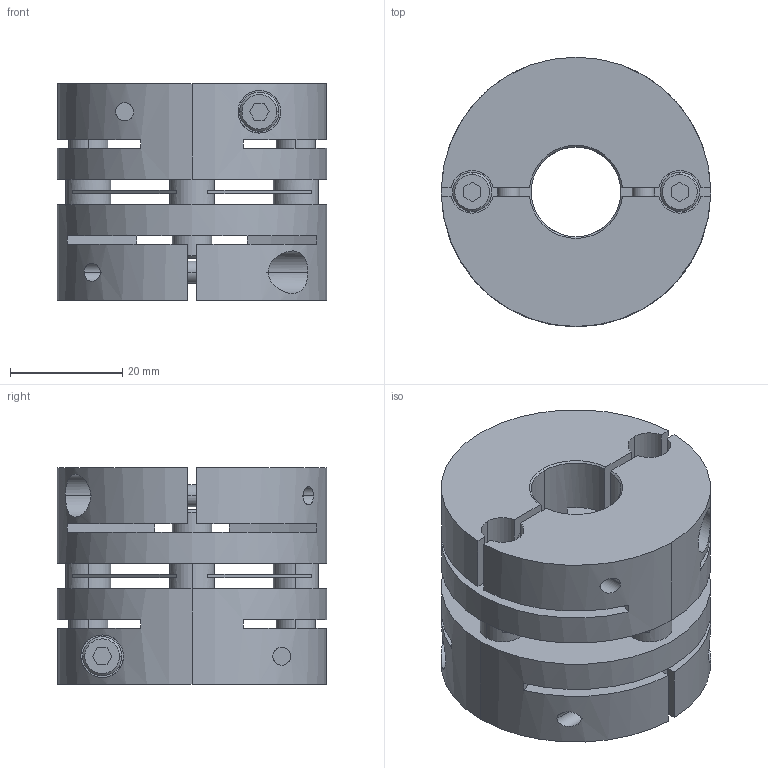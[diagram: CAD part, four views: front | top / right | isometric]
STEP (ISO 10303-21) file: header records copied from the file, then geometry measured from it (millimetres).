
FILE_DESCRIPTION((''),'2;1');
FILE_NAME('LAS-48C-16×22.stp','2015-10-14T15:45:57',(''),(''),'AutoCAD STEP 2000i','AutoCAD 2000i',', , ');
FILE_SCHEMA(('CONFIG_CONTROL_DESIGN'));
Length unit declared in the file: millimetre
Products named in the file (6): LAS-48C-12×19; 忣兜1; LA-4802-D19; LA-4802-D12-1; LA-4802-D12; LAS48-ITA
Assembly tree (5 placements, depth 2):
  LAS-48C-12×19
    忣兜1
    LA-4802-D19
    LA-4802-D12-1
    LA-4802-D12
    LAS48-ITA
Bounding box: 48 x 48 x 38.6 mm (x, y, z)
Volume: 46505.2 mm3; surface area: 21859.6 mm2
Topology: 1 solids, 1 shells, 224 faces, 600 edges, 392 vertices
Faces by surface type: plane 112, cylinder 84, cone 28
Entity records: 7841 total; most frequent: CARTESIAN_POINT 1878, DIRECTION 1256, ORIENTED_EDGE 1200, EDGE_CURVE 600, AXIS2_PLACEMENT_3D 458, VERTEX_POINT 392, VECTOR 340, LINE 340
